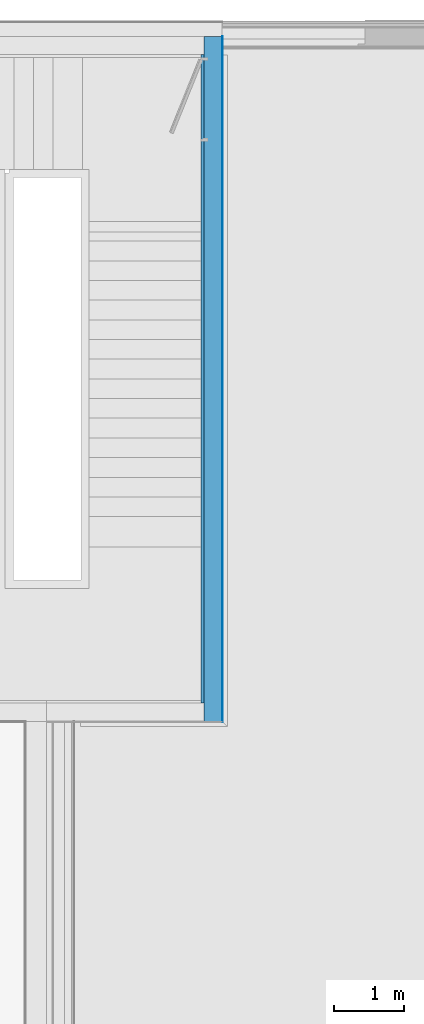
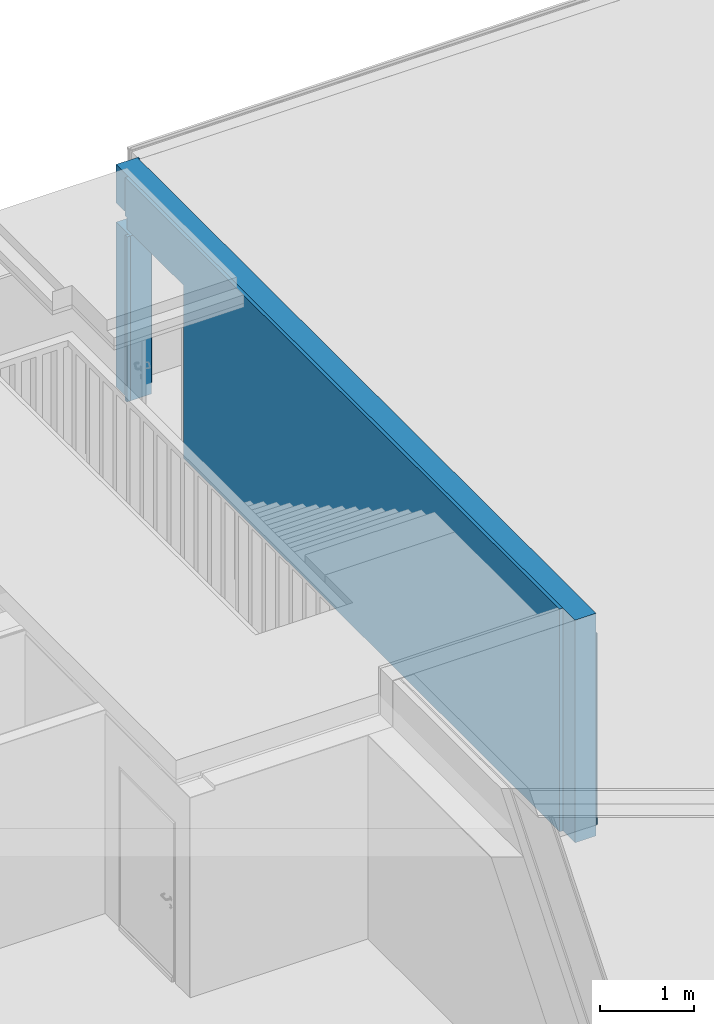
# One storey, part 16 of 34: 3 building element parts, 1 opening, 1 element without a shape of its own.
"""IFC4 building model written with IfcOpenShell, lengths in millimetres."""

from ifc_helpers import new_model, entity, si_unit, converted_unit, derived_unit, direction, frame, origin_with_axes, place, context, subcontext, project, spatial, polygons, material, type_object, element, aggregate, save


model = new_model("IFC4")

# Units and contexts
model_context = context("Model", 3, precision=0.01, world=origin_with_axes(), true_north=direction((0.0, 1.0)))
body_context = subcontext(model_context, "Body", "Model", "MODEL_VIEW")
ifc_project = project(units=[si_unit("LENGTHUNIT", "METRE", prefix="MILLI"), si_unit("AREAUNIT", "SQUARE_METRE"), si_unit("VOLUMEUNIT", "CUBIC_METRE"), converted_unit("PLANEANGLEUNIT", "DEGREE", entity("IfcPlaneAngleMeasure", 0.0174532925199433), si_unit("PLANEANGLEUNIT", "RADIAN"), dimensions=[0, 0, 0, 0, 0, 0, 0]), converted_unit("TIMEUNIT", "Year", entity("IfcTimeMeasure", 31557600.0), si_unit("TIMEUNIT", "SECOND"), dimensions=[0, 0, 1, 0, 0, 0, 0]), si_unit("MASSUNIT", "GRAM", prefix="KILO"), si_unit("THERMODYNAMICTEMPERATUREUNIT", "DEGREE_CELSIUS"), si_unit("LUMINOUSINTENSITYUNIT", "LUMEN"), si_unit("ENERGYUNIT", "JOULE", prefix="MEGA"), derived_unit("THERMALCONDUCTANCEUNIT", [(si_unit("POWERUNIT", "WATT"), 1), (si_unit("LENGTHUNIT", "METRE"), -1), (si_unit("THERMODYNAMICTEMPERATUREUNIT", "KELVIN"), -1)]), derived_unit("SPECIFICHEATCAPACITYUNIT", [(si_unit("ENERGYUNIT", "JOULE"), 1), (si_unit("MASSUNIT", "GRAM", prefix="KILO"), -1), (si_unit("THERMODYNAMICTEMPERATUREUNIT", "KELVIN"), -1)]), derived_unit("MASSDENSITYUNIT", [(si_unit("MASSUNIT", "GRAM", prefix="KILO"), 1), (si_unit("VOLUMEUNIT", "CUBIC_METRE"), -1)])], contexts=[model_context])

# Site, building, storey
site_placement = place(None, origin_with_axes())
site = spatial("IfcSite", under=ifc_project, at=site_placement, Name="Gelände", CompositionType="ELEMENT")
building_placement = place(site_placement, origin_with_axes())
building = spatial("IfcBuilding", under=site, at=building_placement, Name="Gebäude", CompositionType="ELEMENT")
storey_placement = place(building_placement, frame((0.0, 0.0, 2900.0), z_axis=(0.0, 0.0, 1.0), x_axis=(1.0, 0.0, 0.0)))
storey = spatial("IfcBuildingStorey", under=building, at=storey_placement, Name="1.OG", CompositionType="ELEMENT", Elevation=2900.0)

# Wall, opening, building element parts
wall_type = type_object("IfcWallType", Name="Innenwand Typ 10 310", PredefinedType="NOTDEFINED")
wall_placement = place(storey_placement, frame((20128.99744477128, 28247.59728131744, 500.0), z_axis=(0.0, 0.0, 1.0), x_axis=(0.0, 1.0, 0.0)))
wall = element("IfcWall", 1, at=wall_placement, inside=storey, type_object=wall_type, Name="Wand-014", PredefinedType="NOTDEFINED")
opening_placement = place(wall_placement, frame((8589.999999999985, 0.0, 149.9999999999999), z_axis=(0.0, 0.0, 1.0), x_axis=(1.0, 0.0, 0.0)))
element("IfcOpeningElement", 2, at=opening_placement, cuts=wall, Name="Tür-010", context=body_context, identifier="Reference", shape_type="Tessellation", body=[
    polygons([(-600.0000000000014, -310.9999999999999, 2100.0), (-600.0000000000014, -310.9999999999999, -649.9999999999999), (600.0000000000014, -310.9999999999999, -649.9999999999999), (600.0000000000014, -310.9999999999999, 2100.0), (-600.0000000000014, 1.000000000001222, 2100.0), (-600.0000000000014, 1.000000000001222, -649.9999999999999), (600.0000000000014, 1.000000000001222, -649.9999999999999), (600.0000000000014, 1.000000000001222, 2100.0)], [[[1, 2, 3, 4]], [[5, 6, 2, 1]], [[6, 7, 3, 2]], [[7, 8, 4, 3]], [[8, 5, 1, 4]], [[7, 6, 5, 8]]], closed=True),
])
ifc_material_1 = material(Name="Sichtbeton")
building_element_part_1_placement = place(wall_placement, origin_with_axes())
building_element_part_1 = element("IfcBuildingElementPart", 3, at=building_element_part_1_placement, material=ifc_material_1, Name="Sichtbeton", PredefinedType="NOTDEFINED", context=body_context, shape_type="Tessellation", body=[
    polygons([(9189.999999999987, 0.0, 2149.999999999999), (9189.999999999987, -39.99999999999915, 2149.999999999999), (9229.999999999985, -39.99999999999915, 2149.999999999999), (9229.999999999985, 0.0, 2149.999999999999), (9189.999999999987, -39.99999999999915, 149.9999999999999), (9189.999999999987, 0.0, 149.9999999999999), (9189.99999999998, -39.99999999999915, 0.0), (9229.999999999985, -39.99999999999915, 0.0), (9229.999999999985, 0.0, 0.0), (9189.99999999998, 0.0, 0.0)], [[[1, 2, 3, 4]], [[5, 2, 1, 6]], [[2, 5, 7, 8, 3]], [[9, 4, 3, 8]], [[6, 1, 4, 9, 10]], [[5, 6, 10, 7]], [[7, 10, 9, 8]]], closed=True),
    polygons([(7989.999999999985, -39.99999999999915, 0.0), (7989.999999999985, -39.99999999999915, 2250.0), (9189.999999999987, -39.99999999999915, 2250.0), (9189.999999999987, -39.99999999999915, 2399.999999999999), (9229.999999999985, -39.99999999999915, 2399.999999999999), (9229.999999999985, -39.99999999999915, 2899.999999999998), (-39.99999999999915, -39.99999999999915, 2899.999999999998), (-39.99999999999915, -39.99999999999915, 0.0), (7989.999999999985, 0.0, 0.0), (7989.999999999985, 0.0, 2250.0), (9189.999999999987, 0.0, 2250.0), (9189.999999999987, 0.0, 2399.999999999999), (9229.999999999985, 0.0, 2399.999999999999), (9229.999999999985, 0.0, 2899.999999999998), (-39.99999999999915, 0.0, 2899.999999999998), (-39.99999999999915, 0.0, 0.0)], [[[1, 2, 3, 4, 5, 6, 7, 8]], [[2, 1, 9, 10]], [[11, 3, 2, 10]], [[3, 11, 12, 4]], [[12, 13, 5, 4]], [[13, 14, 6, 5]], [[7, 6, 14, 15]], [[16, 8, 7, 15]], [[9, 1, 8, 16]], [[10, 9, 16, 15, 14, 13, 12, 11]]], closed=True),
])
ifc_material_2 = material(Name="Beton bewehrt")
building_element_part_2_placement = place(wall_placement, origin_with_axes())
building_element_part_2 = element("IfcBuildingElementPart", 4, at=building_element_part_2_placement, material=ifc_material_2, Name="Beton bewehrt", PredefinedType="NOTDEFINED", context=body_context, shape_type="Tessellation", body=[
    polygons([(9189.999999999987, -39.99999999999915, 2149.999999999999), (9189.999999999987, -300.0000000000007, 2149.999999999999), (9489.999999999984, -300.0000000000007, 2149.999999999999), (9489.999999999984, -39.99999999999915, 2149.999999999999), (9189.999999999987, -300.0000000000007, 149.9999999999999), (9189.999999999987, -39.99999999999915, 149.9999999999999), (9189.99999999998, -300.0000000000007, 0.0), (9489.999999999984, -300.0000000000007, 0.0), (9489.999999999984, -39.99999999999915, 0.0), (9189.99999999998, -39.99999999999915, 0.0)], [[[1, 2, 3, 4]], [[5, 2, 1, 6]], [[2, 5, 7, 8, 3]], [[9, 4, 3, 8]], [[6, 1, 4, 9, 10]], [[5, 6, 10, 7]], [[7, 10, 9, 8]]], closed=True),
    polygons([(7989.999999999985, -299.9999999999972, 0.0), (7989.999999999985, -300.0000000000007, 2250.0), (9189.999999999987, -300.0000000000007, 2250.0), (9189.999999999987, -300.0000000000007, 2399.999999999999), (9489.999999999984, -300.0000000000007, 2399.999999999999), (9489.999999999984, -300.0000000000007, 2899.999999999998), (-300.0000000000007, -300.0000000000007, 2899.999999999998), (-300.0000000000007, -300.0000000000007, 0.0), (7989.999999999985, -39.99999999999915, 0.0), (7989.999999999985, -39.99999999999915, 2250.0), (9189.999999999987, -39.99999999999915, 2250.0), (9189.999999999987, -39.99999999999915, 2399.999999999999), (9489.999999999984, -39.99999999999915, 2399.999999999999), (9489.999999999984, -39.99999999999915, 2899.999999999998), (-300.0000000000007, -39.99999999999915, 2899.999999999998), (-300.0000000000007, -39.99999999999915, 0.0)], [[[1, 2, 3, 4, 5, 6, 7, 8]], [[2, 1, 9, 10]], [[11, 3, 2, 10]], [[3, 11, 12, 4]], [[12, 13, 5, 4]], [[6, 5, 13, 14]], [[7, 6, 14, 15]], [[8, 7, 15, 16]], [[9, 1, 8, 16]], [[10, 9, 16, 15, 14, 13, 12, 11]]], closed=True),
])
ifc_material_3 = material(Name="Kalkzementputz Aussen")
building_element_part_3_placement = place(wall_placement, origin_with_axes())
building_element_part_3 = element("IfcBuildingElementPart", 5, at=building_element_part_3_placement, material=ifc_material_3, Name="Kalkzementputz Aussen", PredefinedType="NOTDEFINED", context=body_context, shape_type="Tessellation", body=[
    polygons([(9189.999999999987, -300.0000000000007, 2149.999999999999), (9189.999999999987, -309.9999999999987, 2149.999999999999), (9489.999999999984, -309.9999999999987, 2149.999999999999), (9489.999999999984, -300.0000000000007, 2149.999999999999), (9189.999999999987, -309.9999999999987, 149.9999999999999), (9189.999999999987, -300.0000000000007, 149.9999999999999), (9320.999999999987, -309.9999999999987, 149.9999999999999), (9320.999999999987, -309.9999999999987, 0.0), (9489.999999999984, -309.9999999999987, 0.0), (9489.999999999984, -300.0000000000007, 0.0), (9320.999999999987, -300.0000000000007, 0.0), (9320.999999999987, -300.0000000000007, 149.9999999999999)], [[[1, 2, 3, 4]], [[5, 2, 1, 6]], [[2, 5, 7, 8, 9, 3]], [[10, 4, 3, 9]], [[6, 1, 4, 10, 11, 12]], [[5, 6, 12, 7]], [[7, 12, 11, 8]], [[8, 11, 10, 9]]], closed=True),
    polygons([(7989.999999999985, -309.9999999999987, 149.9999999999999), (7989.999999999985, -309.9999999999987, 2250.0), (9189.999999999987, -309.9999999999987, 2250.0), (9189.999999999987, -309.9999999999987, 2399.999999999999), (9489.999999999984, -309.9999999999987, 2399.999999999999), (9489.999999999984, -309.9999999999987, 2899.999999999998), (9450.999999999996, -309.9999999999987, 2899.999948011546), (9450.999999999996, -309.9999999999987, 2643.999948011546), (-309.9999999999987, -309.9999999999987, 2643.999948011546), (-309.9999999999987, -309.9999999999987, 149.9999999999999), (7989.999999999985, -299.9999999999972, 149.9999999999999), (7989.999999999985, -299.9999999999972, 2250.0), (9189.999999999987, -300.0000000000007, 2250.0), (9189.999999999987, -300.0000000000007, 2399.999999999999), (9489.999999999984, -300.0000000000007, 2399.999999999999), (9489.999999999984, -300.0000000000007, 2899.999999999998), (9450.999999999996, -300.0000000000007, 2899.999948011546), (9450.999999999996, -300.0000000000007, 2643.999948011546), (-300.0000000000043, -300.0000000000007, 2643.999948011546), (-309.9999999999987, -300.0000000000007, 2643.999948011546), (-309.9999999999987, -300.0000000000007, 149.9999999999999), (-300.0000000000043, -299.9999999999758, 149.9999999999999)], [[[1, 2, 3, 4, 5, 6, 7, 8, 9, 10]], [[2, 1, 11, 12]], [[13, 3, 2, 12]], [[3, 13, 14, 4]], [[14, 15, 5, 4]], [[6, 5, 15, 16]], [[17, 7, 6, 16]], [[17, 18, 8, 7]], [[8, 18, 19, 20, 9]], [[21, 10, 9, 20]], [[11, 1, 10, 21, 22]], [[12, 11, 22, 21, 20, 19, 18, 17, 16, 15, 14, 13]]], closed=True),
])
aggregate(wall, [building_element_part_1, building_element_part_2, building_element_part_3])

save(model, "model.ifc")
